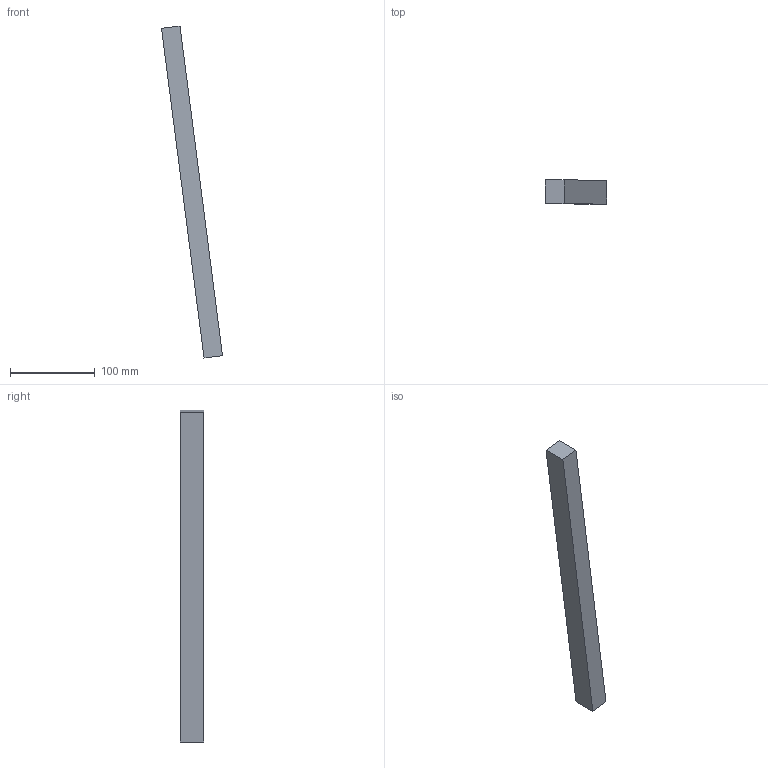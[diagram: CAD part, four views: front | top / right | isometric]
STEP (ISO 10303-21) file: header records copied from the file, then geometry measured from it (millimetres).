
FILE_DESCRIPTION(('Open CASCADE Model'),'2;1');
FILE_NAME('Open CASCADE Shape Model','2026-09-19T23:46:41',('Author'),( 'Open CASCADE'),'Open CASCADE STEP processor 7.9','Open CASCADE 7.9' ,'Unknown');
FILE_SCHEMA(('AUTOMOTIVE_DESIGN { 1 0 10303 214 1 1 1 1 }'));
Length unit declared in the file: millimetre
Products named in the file (1): Open CASCADE STEP translator 7.9 89
Bounding box: 71.82 x 28 x 390.81 mm (x, y, z)
Volume: 240984.4 mm3; surface area: 40352.8 mm2
Topology: 1 solids, 1 shells, 6 faces, 12 edges, 8 vertices
Faces by surface type: plane 6
Entity records: 322 total; most frequent: CARTESIAN_POINT 51, DIRECTION 50, LINE 36, VECTOR 36, ORIENTED_EDGE 24, PCURVE 24, DEFINITIONAL_REPRESENTATION 24, EDGE_CURVE 12
